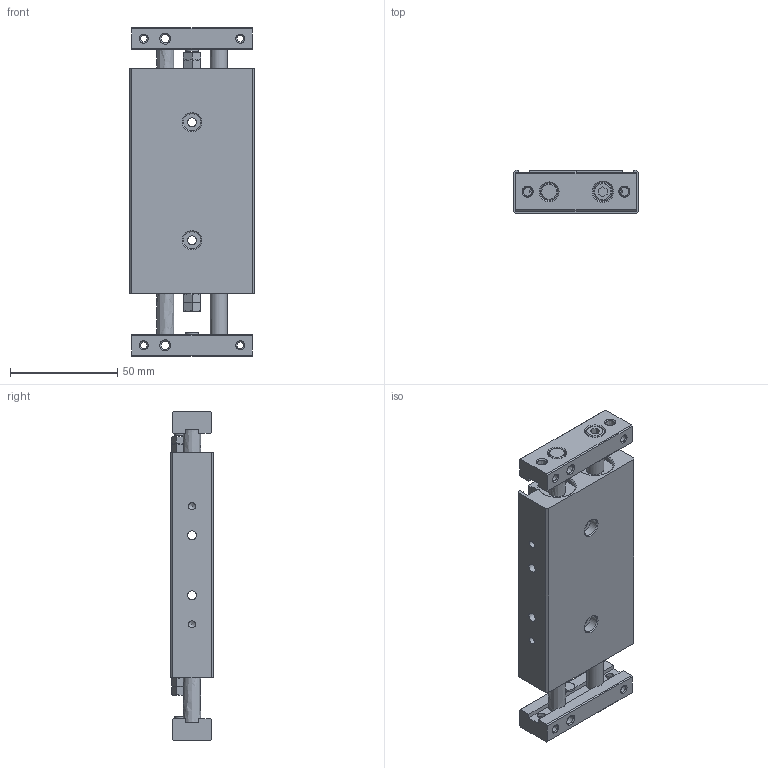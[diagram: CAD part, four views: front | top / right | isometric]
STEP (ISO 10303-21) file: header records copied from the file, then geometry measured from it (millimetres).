
FILE_DESCRIPTION((''),'2;1');
FILE_NAME('I:\3D電子目錄\氣缸\STX\STX\STX16\STX16x10.stp','2007-10-01T17:15:23',('Administrator'),(''),'Autodesk Inventor 11','Autodesk Inventor 11','');
FILE_SCHEMA(('AUTOMOTIVE_DESIGN { 1 0 10303 214 1 1 1 1 }'));
Length unit declared in the file: millimetre
Products named in the file (1): STX16
Bounding box: 58 x 20 x 153 mm (x, y, z)
Volume: 130516.1 mm3; surface area: 35571.7 mm2
Topology: 1 solids, 1 shells, 267 faces, 674 edges, 423 vertices
Faces by surface type: plane 130, cone 76, bspline 36, cylinder 21, torus 4
Full cylindrical faces by diameter (mm): 3.242 x2, 6 x2, 8 x6, 8.2 x2, 8.5 x2, 9 x2, 17 x2, 18 x2
Entity records: 8177 total; most frequent: CARTESIAN_POINT 2631, ORIENTED_EDGE 1088, DIRECTION 1066, EDGE_CURVE 544, EDGE_LOOP 414, AXIS2_PLACEMENT_3D 403, VERTEX_POINT 380, FACE_OUTER_BOUND 266
